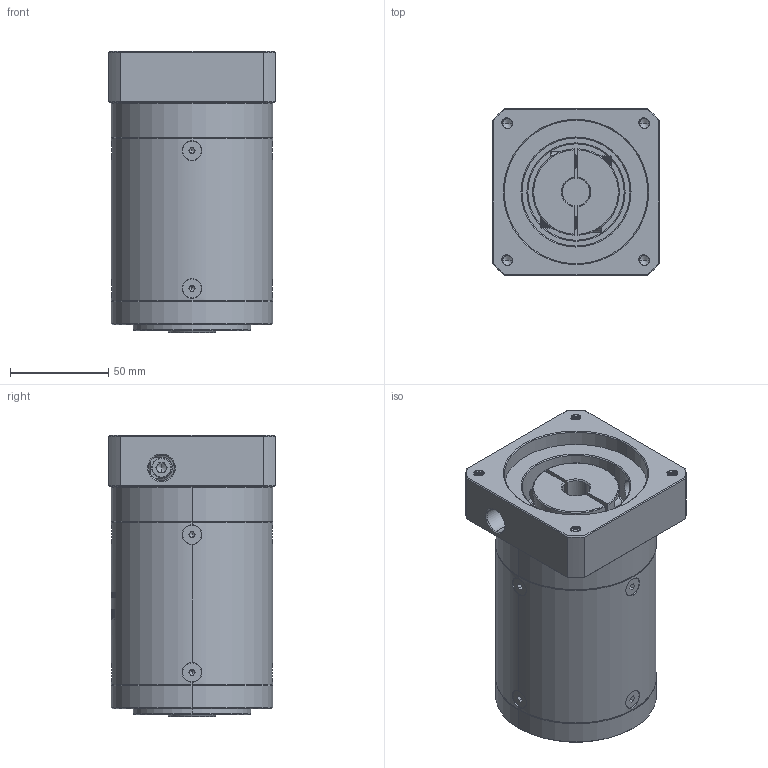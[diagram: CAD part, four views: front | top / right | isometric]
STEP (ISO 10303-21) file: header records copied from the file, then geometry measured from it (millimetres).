
FILE_DESCRIPTION (( 'STEP AP214' ), '1' );
FILE_NAME ('ZE80-K15-L3-14-73-69.5X69.5-M6.step', '2022-05-08T05:58:26', ( '' ), ( 'Microsoft' ), 'SwSTEP 2.0', 'SolidWorks 2016', '' );
FILE_SCHEMA (( 'AUTOMOTIVE_DESIGN' ));
Length unit declared in the file: millimetre
Products named in the file (1): ZE80-K15-L3-14-73-69.5X69.5-M6
Bounding box: 85 x 85 x 143 mm (x, y, z)
Volume: 706049.5 mm3; surface area: 94060.1 mm2
Topology: 13 solids, 13 shells, 2015 faces, 5246 edges, 3319 vertices
Faces by surface type: plane 884, cylinder 473, bspline 322, cone 319, torus 17
Entity records: 112176 total; most frequent: CARTESIAN_POINT 44777, ORIENTED_EDGE 10420, DIRECTION 8039, EDGE_CURVE 5210, VERTEX_POINT 3319, VECTOR 2817, LINE 2817, AXIS2_PLACEMENT_3D 2611
